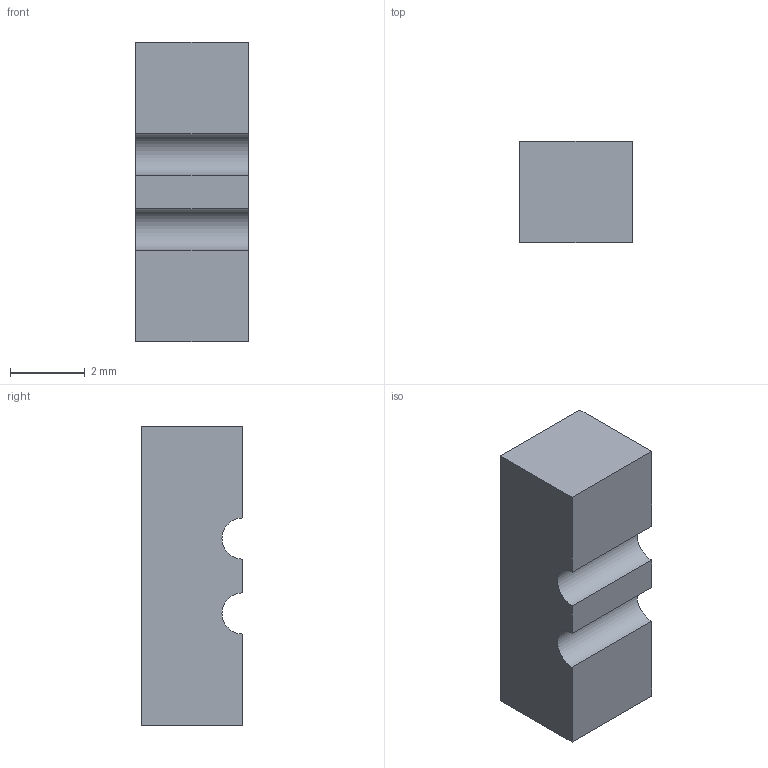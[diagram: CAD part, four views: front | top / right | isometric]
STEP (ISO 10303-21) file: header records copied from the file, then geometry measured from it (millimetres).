
FILE_DESCRIPTION(('Open CASCADE Model'),'2;1');
FILE_NAME('BATTERY_SPLIT_STRAIN_RELIEF_REAR','2026-09-06T11:49:22',( 'Author'),('Open CASCADE'),'Open CASCADE STEP processor 7.8', 'build123d','Unknown');
FILE_SCHEMA(('AUTOMOTIVE_DESIGN { 1 0 10303 214 1 1 1 1 }'));
Length unit declared in the file: millimetre
Products named in the file (2): =>[0:1:1:2]; BATTERY_SPLIT_STRAIN_RELIEF_REAR
Assembly tree (1 placements, depth 2):
  =>[0:1:1:2]
    BATTERY_SPLIT_STRAIN_RELIEF_REAR
Bounding box: 3 x 2.7 x 8 mm (x, y, z)
Volume: 61.9 mm3; surface area: 109.3 mm2
Topology: 1 solids, 1 shells, 10 faces, 24 edges, 16 vertices
Faces by surface type: plane 8, cylinder 2
Entity records: 630 total; most frequent: CARTESIAN_POINT 102, DIRECTION 98, LINE 62, VECTOR 62, ORIENTED_EDGE 48, PCURVE 48, DEFINITIONAL_REPRESENTATION 48, EDGE_CURVE 24
